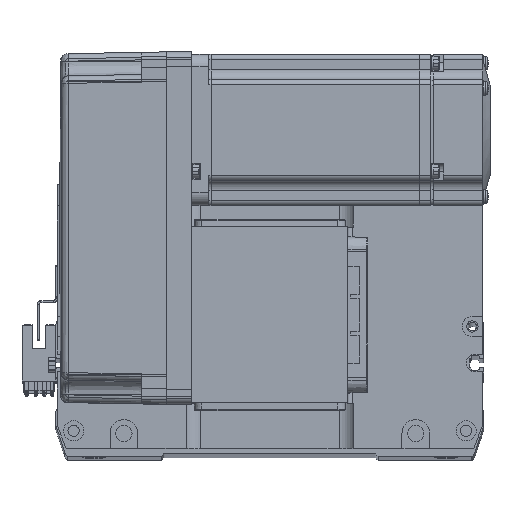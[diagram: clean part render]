
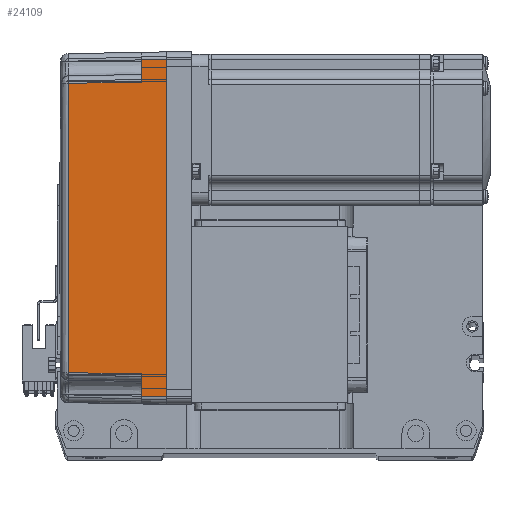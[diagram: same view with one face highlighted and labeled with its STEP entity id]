
A CAD part, top view. The second image highlights one B-rep face of the part: STEP entity #24109.
In plain terms, the highlighted planar face has unit normal (-0.018, 0, 1) as drawn and (0, 1, 0.017) by its records, which use the part's own axes.
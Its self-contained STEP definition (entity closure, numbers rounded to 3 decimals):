
#2199 = ORIENTED_EDGE ( 'NONE', *, *, #23086, .F. ) ;
#2432 = VECTOR ( 'NONE', #15308, 1000. ) ;
#2488 = VERTEX_POINT ( 'NONE', #8117 ) ;
#2707 = VECTOR ( 'NONE', #8686, 1000. ) ;
#3383 = EDGE_CURVE ( 'NONE', #6590, #25951, #57256, .T. ) ;
#3668 = CARTESIAN_POINT ( 'NONE',  ( 67., 36., 0. ) ) ;
#6590 = VERTEX_POINT ( 'NONE', #20479 ) ;
#6625 = ORIENTED_EDGE ( 'NONE', *, *, #25467, .T. ) ;
#8010 = DIRECTION ( 'NONE',  ( 0.017, -0.017, 1. ) ) ;
#8117 = CARTESIAN_POINT ( 'NONE',  ( -58., 35.825, 10. ) ) ;
#8686 = DIRECTION ( 'NONE',  ( 1., 0., 0. ) ) ;
#9318 = EDGE_CURVE ( 'NONE', #2488, #35531, #19776, .T. ) ;
#10660 = CARTESIAN_POINT ( 'NONE',  ( 70., 35.825, 10. ) ) ;
#11943 = DIRECTION ( 'NONE',  ( 0., 1., 0.017 ) ) ;
#15308 = DIRECTION ( 'NONE',  ( 1., 0., 0. ) ) ;
#16182 = PLANE ( 'NONE',  #19215 ) ;
#16899 = CARTESIAN_POINT ( 'NONE',  ( -58., 35.825, 10. ) ) ;
#18310 = EDGE_CURVE ( 'NONE', #25951, #2488, #44241, .T. ) ;
#19215 = AXIS2_PLACEMENT_3D ( 'NONE', #50608, #11943, #55092 ) ;
#19258 = CARTESIAN_POINT ( 'NONE',  ( 70., 35.825, 10. ) ) ;
#19264 = LINE ( 'NONE', #52437, #41352 ) ;
#19500 = ORIENTED_EDGE ( 'NONE', *, *, #18310, .T. ) ;
#19776 = LINE ( 'NONE', #16899, #54762 ) ;
#20479 = CARTESIAN_POINT ( 'NONE',  ( -67., 36., 0. ) ) ;
#21813 = CARTESIAN_POINT ( 'NONE',  ( 58., 35.825, 10. ) ) ;
#21993 = EDGE_CURVE ( 'NONE', #24797, #24390, #41483, .T. ) ;
#22275 = DIRECTION ( 'NONE',  ( 0.017, -0.017, 1. ) ) ;
#23086 = EDGE_CURVE ( 'NONE', #57462, #24390, #19264, .T. ) ;
#23140 = VECTOR ( 'NONE', #62517, 1000. ) ;
#23282 = DIRECTION ( 'NONE',  ( -0.017, -0.017, 1. ) ) ;
#24109 = ADVANCED_FACE ( 'NONE', ( #45699 ), #16182, .T. ) ;
#24390 = VERTEX_POINT ( 'NONE', #50761 ) ;
#24504 = CARTESIAN_POINT ( 'NONE',  ( 57.495, 35.32, 38.985 ) ) ;
#24797 = VERTEX_POINT ( 'NONE', #21813 ) ;
#25467 = EDGE_CURVE ( 'NONE', #35531, #40647, #53719, .T. ) ;
#25951 = VERTEX_POINT ( 'NONE', #30179 ) ;
#27619 = CARTESIAN_POINT ( 'NONE',  ( -19.165, 35.316, 39.181 ) ) ;
#28361 = VECTOR ( 'NONE', #36507, 1000. ) ;
#29819 = CARTESIAN_POINT ( 'NONE',  ( -67., 36., 0. ) ) ;
#30179 = CARTESIAN_POINT ( 'NONE',  ( -66.826, 35.825, 10. ) ) ;
#31604 = ORIENTED_EDGE ( 'NONE', *, *, #3383, .T. ) ;
#32454 = CARTESIAN_POINT ( 'NONE',  ( -57.495, 35.32, 38.985 ) ) ;
#34636 = CARTESIAN_POINT ( 'NONE',  ( -57.495, 35.32, 38.985 ) ) ;
#35531 = VERTEX_POINT ( 'NONE', #32454 ) ;
#36507 = DIRECTION ( 'NONE',  ( 0.017, 0.017, -1. ) ) ;
#36549 = ORIENTED_EDGE ( 'NONE', *, *, #9318, .T. ) ;
#36674 = VECTOR ( 'NONE', #22275, 1000. ) ;
#39172 = LINE ( 'NONE', #47988, #23140 ) ;
#39863 = EDGE_CURVE ( 'NONE', #6590, #57462, #39172, .T. ) ;
#40647 = VERTEX_POINT ( 'NONE', #24504 ) ;
#41352 = VECTOR ( 'NONE', #23282, 1000. ) ;
#41483 = LINE ( 'NONE', #19258, #2707 ) ;
#41917 = CARTESIAN_POINT ( 'NONE',  ( 57.495, 35.32, 38.985 ) ) ;
#42054 = ORIENTED_EDGE ( 'NONE', *, *, #39863, .F. ) ;
#43495 = ORIENTED_EDGE ( 'NONE', *, *, #47244, .T. ) ;
#44241 = LINE ( 'NONE', #10660, #2432 ) ;
#44843 = ORIENTED_EDGE ( 'NONE', *, *, #21993, .T. ) ;
#45699 = FACE_OUTER_BOUND ( 'NONE', #56875, .T. ) ;
#47244 = EDGE_CURVE ( 'NONE', #40647, #24797, #54246, .T. ) ;
#47988 = CARTESIAN_POINT ( 'NONE',  ( 0., 36., 0. ) ) ;
#50608 = CARTESIAN_POINT ( 'NONE',  ( 70., 36., 0. ) ) ;
#50761 = CARTESIAN_POINT ( 'NONE',  ( 66.826, 35.825, 10. ) ) ;
#52437 = CARTESIAN_POINT ( 'NONE',  ( 67.001, 36.001, -0.052 ) ) ;
#53719 = B_SPLINE_CURVE_WITH_KNOTS ( 'NONE', 3,
 ( #34636, #27619, #56582, #41917 ),
 .UNSPECIFIED., .F., .F.,
 ( 4, 4 ),
 ( 0., 1. ),
 .UNSPECIFIED. ) ;
#54246 = LINE ( 'NONE', #61421, #28361 ) ;
#54762 = VECTOR ( 'NONE', #8010, 1000. ) ;
#55092 = DIRECTION ( 'NONE',  ( 0., -0.017, 1. ) ) ;
#56582 = CARTESIAN_POINT ( 'NONE',  ( 19.165, 35.316, 39.181 ) ) ;
#56875 = EDGE_LOOP ( 'NONE', ( #31604, #19500, #36549, #6625, #43495, #44843, #2199, #42054 ) ) ;
#57256 = LINE ( 'NONE', #29819, #36674 ) ;
#57462 = VERTEX_POINT ( 'NONE', #3668 ) ;
#61421 = CARTESIAN_POINT ( 'NONE',  ( 57.495, 35.32, 38.985 ) ) ;
#62517 = DIRECTION ( 'NONE',  ( 1., 0., 0. ) ) ;
